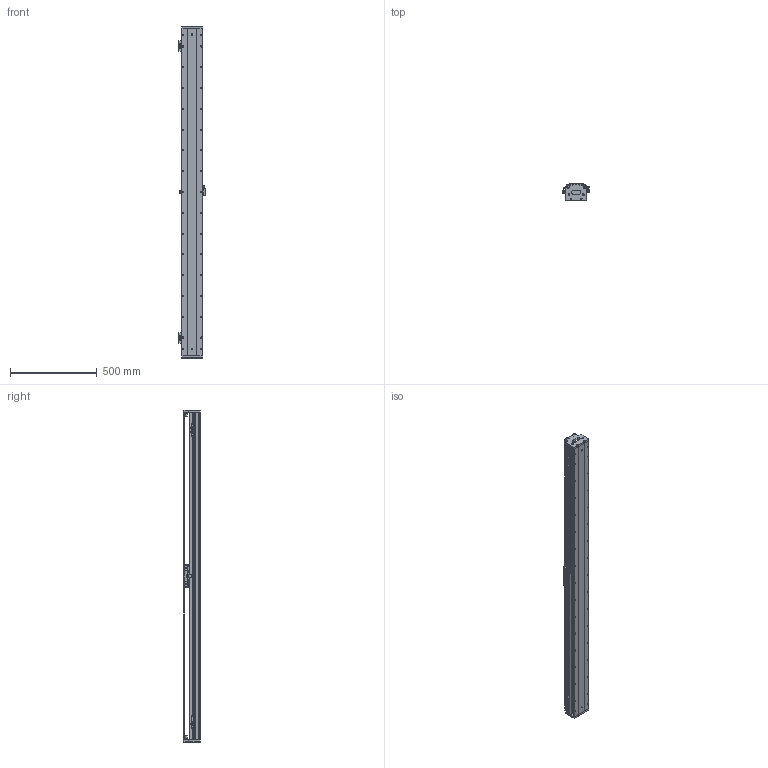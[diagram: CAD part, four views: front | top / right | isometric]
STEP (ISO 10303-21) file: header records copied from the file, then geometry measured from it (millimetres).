
FILE_DESCRIPTION (( 'STEP AP203' ), '1' );
FILE_NAME ('DKW119-C15-W060(T1680-L005-0.2).STEP', '2021-09-02T03:16:05', ( '微软用户' ), ( '微软中国' ), 'SwSTEP 2.0', 'SolidWorks 2018', '' );
FILE_SCHEMA (( 'CONFIG_CONTROL_DESIGN' ));
Length unit declared in the file: millimetre
Products named in the file (27): 嫖萇羲壽蚾饜极; 06652-0001-004-00 DKW120嶺輸菜輸; DKW-HYB-JY-A-00 賑輸揤啣A; 嫖萇羲壽蚾饜极A; 12018-0001-002-00 詩湍; DKW119-RU-DTJ-00 RU2黍杅芛盓殤; DKW-SG-GYP-H-00 嫖萇覜茼え; 砎蝶猾沭; 葩璃 萇儂堤盄 ^C15-W060; RUS嫖掑喜; 12160-0000-003-00 DKW120詩湍嶺輸; CKM015-W060-C1-TP-0.2+CKM01-W060-TRL240+黍芛; Ru2; 12160-0000-004-00  DKW120詩湍揤輸; C15-W060; 12018-0001-001-00 菁釱; RUS嫖掑郪璃; DKW119 单轴模组-拉钢带组件; CKMA01-W060-TRLxxx; MSB15-DG-U; DKW119-C15-W060(T1680-L005-0.2); pm-y65; DKW-HXJ-JY-00 遣喳砎蝶; 12018-0001-003-00 賑雄怢啣; 10980-0001-003-00 嫖萇羲壽嘐隅釱; 11062-0001-004-00 DKW119傷啣; MSB15TS2FC+U92.7-16.35_16.35N_(0_45.85_0_01G-M4)
Assembly tree (44 placements, depth 3):
  DKW119-C15-W060(T1680-L005-0.2)
    12018-0001-001-00 菁釱
    MSB15-DG-U  x2
    C15-W060
      12018-0001-003-00 賑雄怢啣
      MSB15TS2FC+U92.7-16.35_16.35N_(0_45.85_0_01G-M4)  x4
      DKW-HYB-JY-A-00 賑輸揤啣A  x2
      DKW119-RU-DTJ-00 RU2黍杅芛盓殤
      葩璃 萇儂堤盄 ^C15-W060
      CKM015-W060-C1-TP-0.2+CKM01-W060-TRL240+黍芛
    CKMA01-W060-TRLxxx
    DKW119 单轴模组-拉钢带组件
      DKW-HXJ-JY-00 遣喳砎蝶  x4
      11062-0001-004-00 DKW119傷啣  x2
      06652-0001-004-00 DKW120嶺輸菜輸  x4
      12018-0001-002-00 詩湍
      砎蝶猾沭  x2
      12160-0000-003-00 DKW120詩湍嶺輸  x2
      12160-0000-004-00  DKW120詩湍揤輸  x2
    嫖萇羲壽蚾饜极
      pm-y65
      10980-0001-003-00 嫖萇羲壽嘐隅釱
    嫖萇羲壽蚾饜极A
      pm-y65  x2
      10980-0001-003-00 嫖萇羲壽嘐隅釱
    DKW-SG-GYP-H-00 嫖萇覜茼え
    RUS嫖掑郪璃
      RUS嫖掑喜
      Ru2
Bounding box: 154.3 x 99 x 1916 mm (x, y, z)
Volume: 8020384.9 mm3; surface area: 2671300.7 mm2
Topology: 50 solids, 99 shells, 4538 faces, 12101 edges, 7727 vertices
Faces by surface type: plane 2330, cylinder 1493, cone 448, bspline 267
Entity records: 118774 total; most frequent: CARTESIAN_POINT 40438, ORIENTED_EDGE 15643, DIRECTION 15000, EDGE_CURVE 7862, VERTEX_POINT 5154, AXIS2_PLACEMENT_3D 5109, VECTOR 4782, LINE 4782
